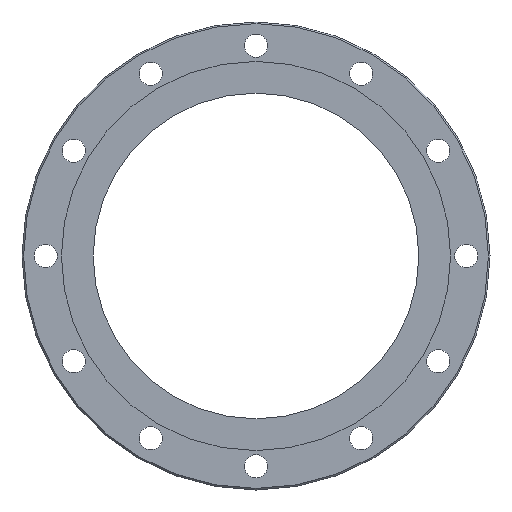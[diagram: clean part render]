
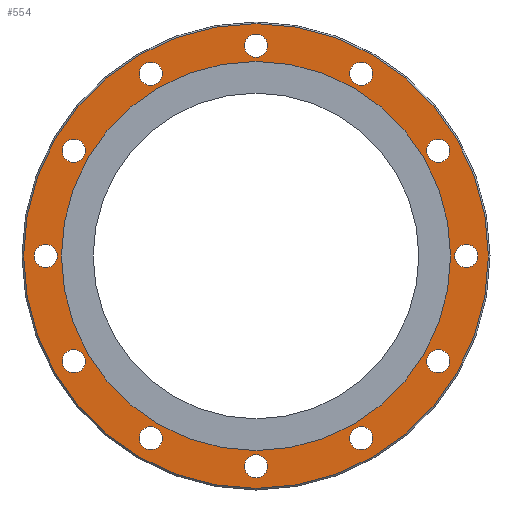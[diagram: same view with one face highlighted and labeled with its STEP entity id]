
A CAD part, left-side view. The second image highlights one B-rep face of the part: STEP entity #554.
In plain terms, the highlighted planar face has unit normal (-1, 0, 0).
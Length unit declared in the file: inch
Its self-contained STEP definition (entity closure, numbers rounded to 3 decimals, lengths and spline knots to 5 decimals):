
#15=FACE_BOUND('',#99,.T.);
#16=FACE_BOUND('',#100,.T.);
#17=FACE_BOUND('',#101,.T.);
#18=FACE_BOUND('',#102,.T.);
#19=FACE_BOUND('',#103,.T.);
#20=FACE_BOUND('',#104,.T.);
#21=FACE_BOUND('',#105,.T.);
#22=FACE_BOUND('',#106,.T.);
#23=FACE_BOUND('',#107,.T.);
#24=FACE_BOUND('',#108,.T.);
#25=FACE_BOUND('',#109,.T.);
#26=FACE_BOUND('',#110,.T.);
#27=FACE_BOUND('',#111,.T.);
#45=PLANE('',#606);
#71=FACE_OUTER_BOUND('',#98,.T.);
#98=EDGE_LOOP('',(#385));
#99=EDGE_LOOP('',(#386,#387));
#100=EDGE_LOOP('',(#388));
#101=EDGE_LOOP('',(#389));
#102=EDGE_LOOP('',(#390));
#103=EDGE_LOOP('',(#391));
#104=EDGE_LOOP('',(#392));
#105=EDGE_LOOP('',(#393));
#106=EDGE_LOOP('',(#394));
#107=EDGE_LOOP('',(#395));
#108=EDGE_LOOP('',(#396));
#109=EDGE_LOOP('',(#397));
#110=EDGE_LOOP('',(#398));
#111=EDGE_LOOP('',(#399));
#193=CIRCLE('',#600,8.7);
#198=CIRCLE('',#607,7.2835);
#199=CIRCLE('',#608,7.2835);
#200=CIRCLE('',#609,0.435);
#201=CIRCLE('',#610,0.435);
#202=CIRCLE('',#611,0.435);
#203=CIRCLE('',#612,0.435);
#204=CIRCLE('',#613,0.435);
#205=CIRCLE('',#614,0.435);
#206=CIRCLE('',#615,0.435);
#207=CIRCLE('',#616,0.435);
#208=CIRCLE('',#617,0.435);
#209=CIRCLE('',#618,0.435);
#210=CIRCLE('',#619,0.435);
#211=CIRCLE('',#620,0.435);
#247=VERTEX_POINT('',#866);
#252=VERTEX_POINT('',#880);
#253=VERTEX_POINT('',#881);
#254=VERTEX_POINT('',#884);
#255=VERTEX_POINT('',#886);
#256=VERTEX_POINT('',#888);
#257=VERTEX_POINT('',#890);
#258=VERTEX_POINT('',#892);
#259=VERTEX_POINT('',#894);
#260=VERTEX_POINT('',#896);
#261=VERTEX_POINT('',#898);
#262=VERTEX_POINT('',#900);
#263=VERTEX_POINT('',#902);
#264=VERTEX_POINT('',#904);
#265=VERTEX_POINT('',#906);
#300=EDGE_CURVE('',#247,#247,#193,.T.);
#307=EDGE_CURVE('',#252,#253,#198,.T.);
#308=EDGE_CURVE('',#253,#252,#199,.T.);
#309=EDGE_CURVE('',#254,#254,#200,.T.);
#310=EDGE_CURVE('',#255,#255,#201,.T.);
#311=EDGE_CURVE('',#256,#256,#202,.T.);
#312=EDGE_CURVE('',#257,#257,#203,.T.);
#313=EDGE_CURVE('',#258,#258,#204,.T.);
#314=EDGE_CURVE('',#259,#259,#205,.T.);
#315=EDGE_CURVE('',#260,#260,#206,.T.);
#316=EDGE_CURVE('',#261,#261,#207,.T.);
#317=EDGE_CURVE('',#262,#262,#208,.T.);
#318=EDGE_CURVE('',#263,#263,#209,.T.);
#319=EDGE_CURVE('',#264,#264,#210,.T.);
#320=EDGE_CURVE('',#265,#265,#211,.T.);
#385=ORIENTED_EDGE('',*,*,#300,.F.);
#386=ORIENTED_EDGE('',*,*,#307,.F.);
#387=ORIENTED_EDGE('',*,*,#308,.F.);
#388=ORIENTED_EDGE('',*,*,#309,.T.);
#389=ORIENTED_EDGE('',*,*,#310,.T.);
#390=ORIENTED_EDGE('',*,*,#311,.T.);
#391=ORIENTED_EDGE('',*,*,#312,.T.);
#392=ORIENTED_EDGE('',*,*,#313,.T.);
#393=ORIENTED_EDGE('',*,*,#314,.T.);
#394=ORIENTED_EDGE('',*,*,#315,.T.);
#395=ORIENTED_EDGE('',*,*,#316,.T.);
#396=ORIENTED_EDGE('',*,*,#317,.T.);
#397=ORIENTED_EDGE('',*,*,#318,.T.);
#398=ORIENTED_EDGE('',*,*,#319,.T.);
#399=ORIENTED_EDGE('',*,*,#320,.T.);
#554=ADVANCED_FACE('',(#71,#15,#16,#17,#18,#19,#20,#21,#22,#23,#24,#25,
#26,#27),#45,.T.);
#600=AXIS2_PLACEMENT_3D('',#867,#684,#685);
#606=AXIS2_PLACEMENT_3D('',#879,#698,#699);
#607=AXIS2_PLACEMENT_3D('',#882,#700,#701);
#608=AXIS2_PLACEMENT_3D('',#883,#702,#703);
#609=AXIS2_PLACEMENT_3D('',#885,#704,#705);
#610=AXIS2_PLACEMENT_3D('',#887,#706,#707);
#611=AXIS2_PLACEMENT_3D('',#889,#708,#709);
#612=AXIS2_PLACEMENT_3D('',#891,#710,#711);
#613=AXIS2_PLACEMENT_3D('',#893,#712,#713);
#614=AXIS2_PLACEMENT_3D('',#895,#714,#715);
#615=AXIS2_PLACEMENT_3D('',#897,#716,#717);
#616=AXIS2_PLACEMENT_3D('',#899,#718,#719);
#617=AXIS2_PLACEMENT_3D('',#901,#720,#721);
#618=AXIS2_PLACEMENT_3D('',#903,#722,#723);
#619=AXIS2_PLACEMENT_3D('',#905,#724,#725);
#620=AXIS2_PLACEMENT_3D('',#907,#726,#727);
#684=DIRECTION('center_axis',(1.,0.,0.));
#685=DIRECTION('ref_axis',(0.,-1.,0.));
#698=DIRECTION('center_axis',(-1.,0.,0.));
#699=DIRECTION('ref_axis',(0.,0.,1.));
#700=DIRECTION('center_axis',(-1.,0.,0.));
#701=DIRECTION('ref_axis',(0.,0.,1.));
#702=DIRECTION('center_axis',(-1.,0.,0.));
#703=DIRECTION('ref_axis',(0.,0.,1.));
#704=DIRECTION('center_axis',(1.,0.,0.));
#705=DIRECTION('ref_axis',(0.,0.,-1.));
#706=DIRECTION('center_axis',(1.,0.,0.));
#707=DIRECTION('ref_axis',(0.,-0.5,-0.866));
#708=DIRECTION('center_axis',(1.,0.,0.));
#709=DIRECTION('ref_axis',(0.,-0.866,-0.5));
#710=DIRECTION('center_axis',(1.,0.,0.));
#711=DIRECTION('ref_axis',(0.,-1.,0.));
#712=DIRECTION('center_axis',(1.,0.,0.));
#713=DIRECTION('ref_axis',(0.,-0.866,0.5));
#714=DIRECTION('center_axis',(1.,0.,0.));
#715=DIRECTION('ref_axis',(0.,-0.5,0.866));
#716=DIRECTION('center_axis',(1.,0.,0.));
#717=DIRECTION('ref_axis',(0.,0.,
1.));
#718=DIRECTION('center_axis',(1.,0.,0.));
#719=DIRECTION('ref_axis',(0.,0.5,0.866));
#720=DIRECTION('center_axis',(1.,0.,0.));
#721=DIRECTION('ref_axis',(0.,0.866,0.5));
#722=DIRECTION('center_axis',(1.,0.,0.));
#723=DIRECTION('ref_axis',(0.,1.,0.));
#724=DIRECTION('center_axis',(1.,0.,0.));
#725=DIRECTION('ref_axis',(0.,0.866,-0.5));
#726=DIRECTION('center_axis',(1.,0.,0.));
#727=DIRECTION('ref_axis',(0.,0.5,-0.866));
#866=CARTESIAN_POINT('',(-2.993,8.7,0.));
#867=CARTESIAN_POINT('Origin',(-2.993,0.,0.));
#879=CARTESIAN_POINT('Origin',(-2.993,7.2835,0.));
#880=CARTESIAN_POINT('',(-2.993,7.2835,0.));
#881=CARTESIAN_POINT('',(-2.993,-7.2835,0.));
#882=CARTESIAN_POINT('Origin',(-2.993,0.,0.));
#883=CARTESIAN_POINT('Origin',(-2.993,0.,0.));
#884=CARTESIAN_POINT('',(-2.993,0.,8.31));
#885=CARTESIAN_POINT('Origin',(-2.993,0.,7.875));
#886=CARTESIAN_POINT('',(-2.993,4.155,7.19667));
#887=CARTESIAN_POINT('Origin',(-2.993,3.9375,6.81995));
#888=CARTESIAN_POINT('',(-2.993,7.19667,4.155));
#889=CARTESIAN_POINT('Origin',(-2.993,6.81995,3.9375));
#890=CARTESIAN_POINT('',(-2.993,8.31,0.));
#891=CARTESIAN_POINT('Origin',(-2.993,7.875,0.));
#892=CARTESIAN_POINT('',(-2.993,7.19667,-4.155));
#893=CARTESIAN_POINT('Origin',(-2.993,6.81995,-3.9375));
#894=CARTESIAN_POINT('',(-2.993,4.155,-7.19667));
#895=CARTESIAN_POINT('Origin',(-2.993,3.9375,-6.81995));
#896=CARTESIAN_POINT('',(-2.993,0.,-8.31));
#897=CARTESIAN_POINT('Origin',(-2.993,0.,-7.875));
#898=CARTESIAN_POINT('',(-2.993,-4.155,-7.19667));
#899=CARTESIAN_POINT('Origin',(-2.993,-3.9375,-6.81995));
#900=CARTESIAN_POINT('',(-2.993,-7.19667,-4.155));
#901=CARTESIAN_POINT('Origin',(-2.993,-6.81995,-3.9375));
#902=CARTESIAN_POINT('',(-2.993,-8.31,0.));
#903=CARTESIAN_POINT('Origin',(-2.993,-7.875,0.));
#904=CARTESIAN_POINT('',(-2.993,-7.19667,4.155));
#905=CARTESIAN_POINT('Origin',(-2.993,-6.81995,3.9375));
#906=CARTESIAN_POINT('',(-2.993,-4.155,7.19667));
#907=CARTESIAN_POINT('Origin',(-2.993,-3.9375,6.81995));
